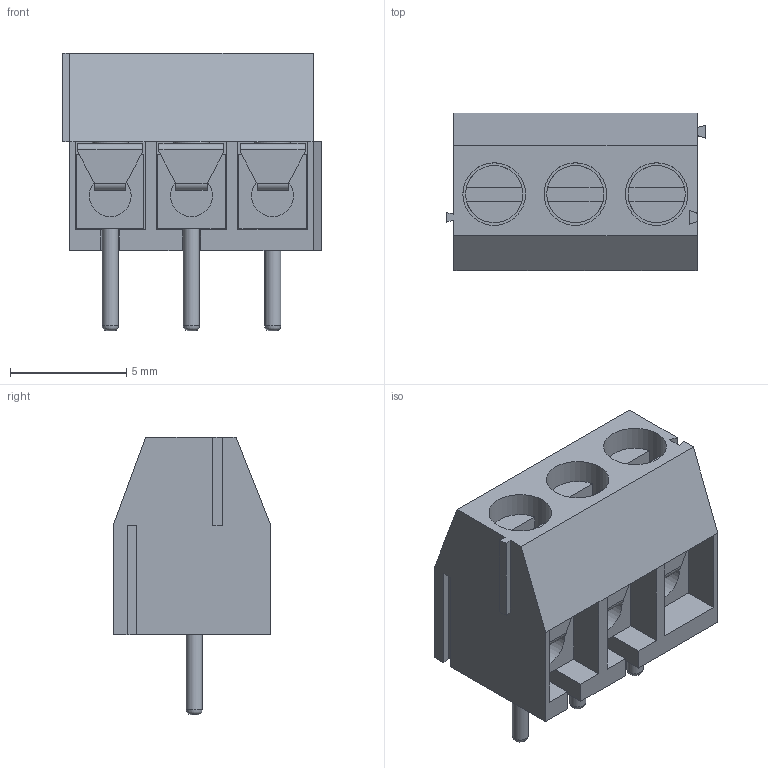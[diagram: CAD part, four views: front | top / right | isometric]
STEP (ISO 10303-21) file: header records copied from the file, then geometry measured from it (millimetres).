
FILE_DESCRIPTION(('FreeCAD Model'),'2;1');
FILE_NAME('Open CASCADE Shape Model','2026-06-20T08:26:18',(''),(''), 'Open CASCADE STEP processor 7.8','FreeCAD','Unknown');
FILE_SCHEMA(('AUTOMOTIVE_DESIGN { 1 0 10303 214 1 1 1 1 }'));
Length unit declared in the file: millimetre
Products named in the file (7): KF350_2p; Corps; Conn_1; Conn_2; blade_1; blade_2; Vis_1
Assembly tree (10 placements, depth 2):
  KF350_2p
    Corps
    Conn_1  x2
    Conn_2
    blade_1
    blade_2  x2
    Vis_1  x3
Bounding box: 11.15 x 6.8 x 11.95 mm (x, y, z)
Volume: 396 mm3; surface area: 1169.2 mm2
Topology: 10 solids, 10 shells, 173 faces, 411 edges, 261 vertices
Faces by surface type: plane 132, cylinder 35, revolution 3, cone 3
Full cylindrical faces by diameter (mm): 0.7 x3, 1.542 x3, 1.6 x3, 1.808 x3, 1.915 x3, 2.459 x3, 2.7 x3
Entity records: 4114 total; most frequent: CARTESIAN_POINT 861, DIRECTION 615, ORIENTED_EDGE 602, EDGE_CURVE 301, LINE 245, VECTOR 245, VERTEX_POINT 192, AXIS2_PLACEMENT_3D 184
